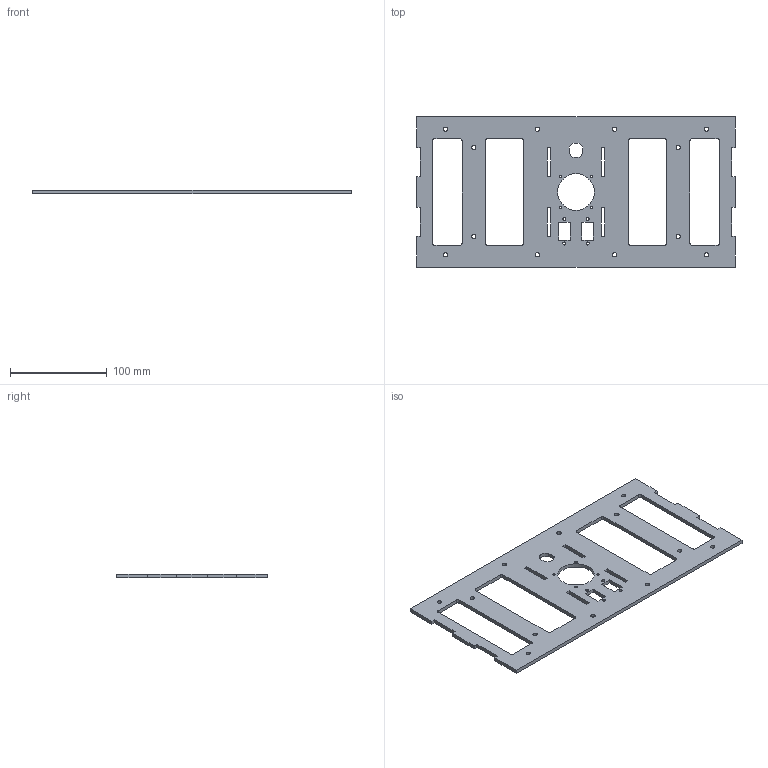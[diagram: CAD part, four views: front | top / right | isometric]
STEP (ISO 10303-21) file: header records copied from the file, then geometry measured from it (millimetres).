
FILE_DESCRIPTION (( 'STEP AP203' ), '1' );
FILE_NAME ('E-Rückplatte_Motor_v2.STEP', '2026-04-23T17:19:53', ( '' ), ( '' ), 'SwSTEP 2.0', 'SolidWorks 2025', '' );
FILE_SCHEMA (( 'CONFIG_CONTROL_DESIGN' ));
Length unit declared in the file: millimetre
Products named in the file (1): E-Rückplatte_Motor_v2
Bounding box: 330 x 156 x 4 mm (x, y, z)
Volume: 131608.9 mm3; surface area: 77629.7 mm2
Topology: 1 solids, 1 shells, 124 faces, 366 edges, 244 vertices
Faces by surface type: plane 64, cylinder 60
Entity records: 4375 total; most frequent: DIRECTION 736, CARTESIAN_POINT 735, ORIENTED_EDGE 732, EDGE_CURVE 366, LINE 246, VECTOR 246, AXIS2_PLACEMENT_3D 245, VERTEX_POINT 244
